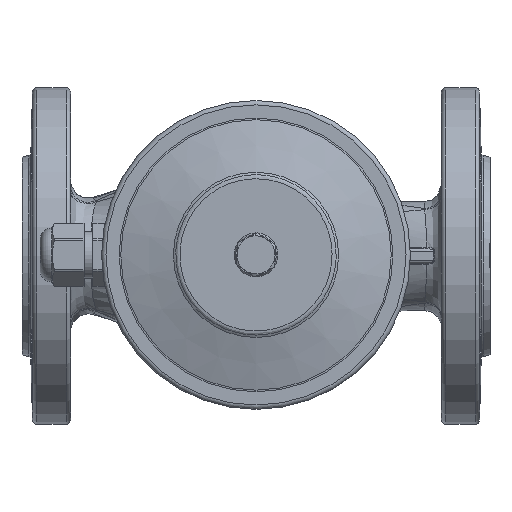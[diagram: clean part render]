
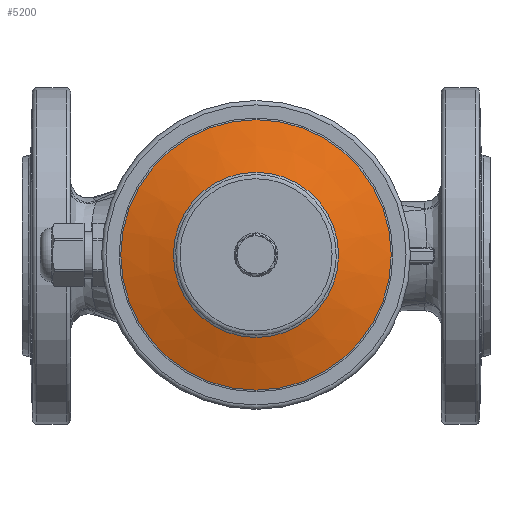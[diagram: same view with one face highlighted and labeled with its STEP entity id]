
A CAD part, top view. The second image highlights one B-rep face of the part: STEP entity #5200.
In plain terms, the highlighted conical face has half-angle 73.4 degrees and reference radius 36.989 mm.
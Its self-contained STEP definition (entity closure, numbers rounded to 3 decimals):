
#5166=CARTESIAN_POINT('',(0.,-28.242,217.443));
#5167=VERTEX_POINT('',#5166);
#5168=CARTESIAN_POINT('',(0.,0.,217.443));
#5169=DIRECTION('',(0.0,0.0,1.0));
#5170=DIRECTION('',(0.0,1.0,0.0));
#5171=AXIS2_PLACEMENT_3D('',#5168,#5169,#5170);
#5172=CIRCLE('',#5171,28.242);
#5173=EDGE_CURVE('',#5167,#5167,#5172,.T.);
#5181=CARTESIAN_POINT('',(0.,0.,214.835));
#5182=DIRECTION('',(0.,0.,-1.0));
#5183=DIRECTION('',(0.0,-1.0,0.0));
#5184=AXIS2_PLACEMENT_3D('',#5181,#5182,#5183);
#5185=CONICAL_SURFACE('',#5184,36.989,73.4);
#5186=CARTESIAN_POINT('',(0.,-46.22,212.083));
#5187=VERTEX_POINT('',#5186);
#5188=CARTESIAN_POINT('',(0.,0.,212.083));
#5189=DIRECTION('',(0.0,0.0,-1.0));
#5190=DIRECTION('',(0.0,1.0,0.0));
#5191=AXIS2_PLACEMENT_3D('',#5188,#5189,#5190);
#5192=CIRCLE('',#5191,46.22);
#5193=EDGE_CURVE('',#5187,#5187,#5192,.T.);
#5194=ORIENTED_EDGE('',*,*,#5193,.F.);
#5195=EDGE_LOOP('',(#5194));
#5196=FACE_OUTER_BOUND('',#5195,.T.);
#5197=ORIENTED_EDGE('',*,*,#5173,.F.);
#5198=EDGE_LOOP('',(#5197));
#5199=FACE_BOUND('',#5198,.T.);
#5200=ADVANCED_FACE('',(#5196,#5199),#5185,.T.);
